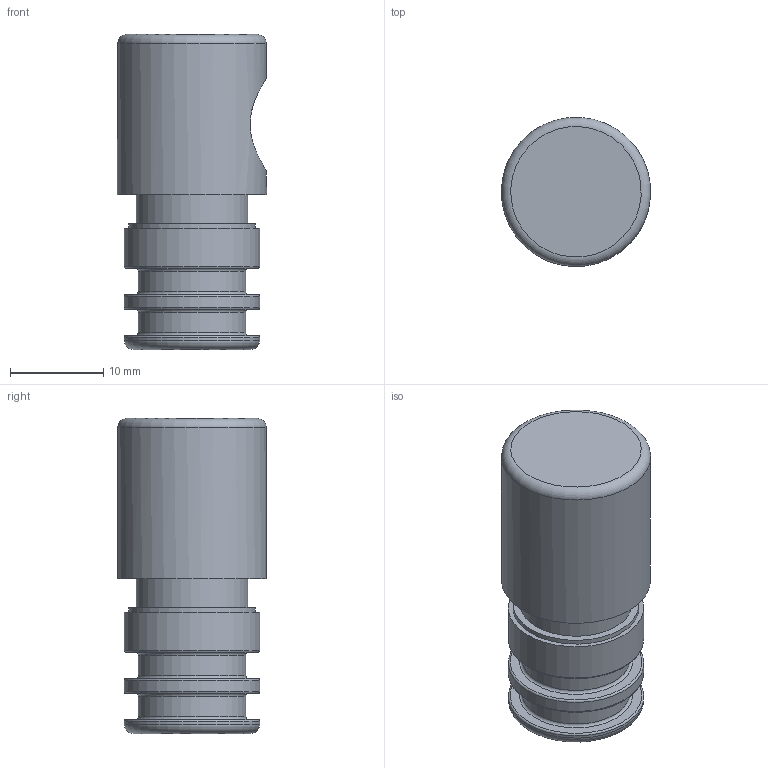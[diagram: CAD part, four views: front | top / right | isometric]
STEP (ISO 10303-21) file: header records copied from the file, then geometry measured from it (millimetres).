
FILE_DESCRIPTION(/* description */ (''),/* implementation_level */ '2;1');
FILE_NAME(/* name */ 'ET039858.stp',/* time_stamp */ '2024-08-28T12:57:30+02:00',/* author */ (''),/* organization */ (''),/* preprocessor_version */ 'ST-DEVELOPER v15',/* originating_system */ 'SIEMENS PLM Software NX 9.0',/* authorisation */ '');
FILE_SCHEMA (('AP203_CONFIGURATION_CONTROLLED_3D_DESIGN_OF_MECHANICAL_PARTS_AND_ASSEMBLIES_MIM_LF { 1 0 10303 403 2 1 2}'));
Length unit declared in the file: millimetre
Products named in the file (1): Chri1AAC3AA3x2b7
Bounding box: 15.99 x 15.98 x 33.8 mm (x, y, z)
Volume: 3803 mm3; surface area: 2941.8 mm2
Topology: 1 solids, 1 shells, 33 faces, 69 edges, 43 vertices
Faces by surface type: plane 11, torus 11, cylinder 10, cone 1
Full cylindrical faces by diameter (mm): 8 x1, 10 x1, 11.54 x2, 12 x1, 13.54 x1, 14.54 x3, 16 x1
Entity records: 1080 total; most frequent: CARTESIAN_POINT 161, DIRECTION 132, ORIENTED_EDGE 76, AXIS2_PLACEMENT_3D 65, EDGE_LOOP 63, FACE_BOUND 61, EDGE_CURVE 38, VERTEX_POINT 36
